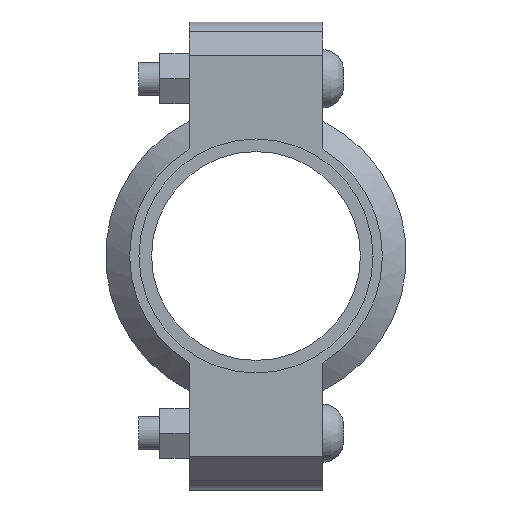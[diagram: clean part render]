
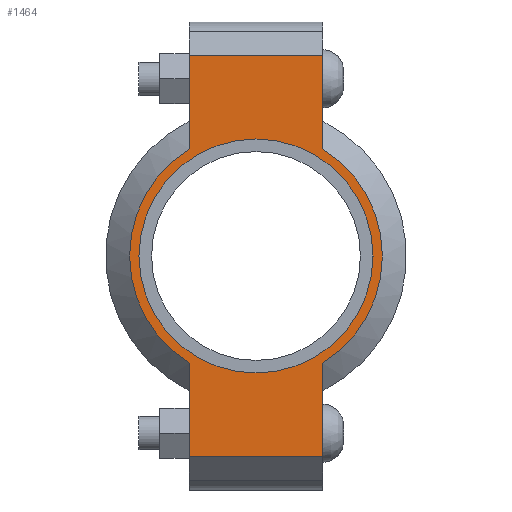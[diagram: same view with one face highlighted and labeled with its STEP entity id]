
A CAD part, left-side view. The second image highlights one B-rep face of the part: STEP entity #1464.
In plain terms, the highlighted planar face has unit normal (-1, 0, 0) as drawn and (0, 0, 1) by its records, which use the part's own axes.
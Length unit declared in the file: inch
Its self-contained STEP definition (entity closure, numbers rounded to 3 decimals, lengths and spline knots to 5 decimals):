
#144=LINE('',#2539,#235);
#152=LINE('',#2575,#243);
#159=LINE('',#2596,#250);
#168=LINE('',#2628,#259);
#169=LINE('',#2632,#260);
#170=LINE('',#2634,#261);
#235=VECTOR('',#2057,0.3937);
#243=VECTOR('',#2073,0.3937);
#250=VECTOR('',#2092,0.3937);
#259=VECTOR('',#2117,0.3937);
#260=VECTOR('',#2122,0.3937);
#261=VECTOR('',#2123,0.3937);
#313=FACE_BOUND('',#473,.T.);
#377=FACE_OUTER_BOUND('',#472,.T.);
#472=EDGE_LOOP('',(#1199,#1200,#1201,#1202,#1203,#1204,#1205,#1206));
#473=EDGE_LOOP('',(#1207));
#570=CIRCLE('',#1725,1.89);
#571=CIRCLE('',#1726,1.89);
#572=CIRCLE('',#1727,1.75);
#675=VERTEX_POINT('',#2536);
#676=VERTEX_POINT('',#2538);
#687=VERTEX_POINT('',#2570);
#688=VERTEX_POINT('',#2574);
#695=VERTEX_POINT('',#2593);
#696=VERTEX_POINT('',#2595);
#706=VERTEX_POINT('',#2631);
#707=VERTEX_POINT('',#2633);
#708=VERTEX_POINT('',#2636);
#839=EDGE_CURVE('',#676,#675,#144,.T.);
#853=EDGE_CURVE('',#688,#687,#152,.T.);
#863=EDGE_CURVE('',#696,#695,#159,.T.);
#878=EDGE_CURVE('',#688,#675,#168,.T.);
#879=EDGE_CURVE('',#687,#696,#570,.T.);
#880=EDGE_CURVE('',#706,#695,#169,.T.);
#881=EDGE_CURVE('',#706,#707,#170,.T.);
#882=EDGE_CURVE('',#707,#676,#571,.T.);
#883=EDGE_CURVE('',#708,#708,#572,.T.);
#1199=ORIENTED_EDGE('',*,*,#878,.F.);
#1200=ORIENTED_EDGE('',*,*,#853,.T.);
#1201=ORIENTED_EDGE('',*,*,#879,.T.);
#1202=ORIENTED_EDGE('',*,*,#863,.T.);
#1203=ORIENTED_EDGE('',*,*,#880,.F.);
#1204=ORIENTED_EDGE('',*,*,#881,.T.);
#1205=ORIENTED_EDGE('',*,*,#882,.T.);
#1206=ORIENTED_EDGE('',*,*,#839,.T.);
#1207=ORIENTED_EDGE('',*,*,#883,.T.);
#1318=PLANE('',#1724);
#1464=ADVANCED_FACE('',(#377,#313),#1318,.T.);
#1724=AXIS2_PLACEMENT_3D('',#2629,#2118,#2119);
#1725=AXIS2_PLACEMENT_3D('',#2630,#2120,#2121);
#1726=AXIS2_PLACEMENT_3D('',#2635,#2124,#2125);
#1727=AXIS2_PLACEMENT_3D('',#2637,#2126,#2127);
#2057=DIRECTION('',(1.,0.,0.));
#2073=DIRECTION('',(-1.,0.,0.));
#2092=DIRECTION('',(-1.,0.,0.));
#2117=DIRECTION('',(0.,-1.,0.));
#2118=DIRECTION('center_axis',(0.,0.,1.));
#2119=DIRECTION('ref_axis',(-1.,0.,0.));
#2120=DIRECTION('center_axis',(0.,0.,1.));
#2121=DIRECTION('ref_axis',(1.,0.,0.));
#2122=DIRECTION('',(0.,1.,0.));
#2123=DIRECTION('',(1.,0.,0.));
#2124=DIRECTION('center_axis',(0.,0.,1.));
#2125=DIRECTION('ref_axis',(1.,0.,0.));
#2126=DIRECTION('center_axis',(0.,0.,-1.));
#2127=DIRECTION('ref_axis',(1.,0.,0.));
#2536=CARTESIAN_POINT('',(3.,-1.,0.94));
#2538=CARTESIAN_POINT('',(1.60378,-1.,0.94));
#2539=CARTESIAN_POINT('',(3.5,-1.,0.94));
#2570=CARTESIAN_POINT('',(1.60378,1.,0.94));
#2574=CARTESIAN_POINT('',(3.,1.,0.94));
#2575=CARTESIAN_POINT('',(-3.5,1.,0.94));
#2593=CARTESIAN_POINT('',(-3.,1.,0.94));
#2595=CARTESIAN_POINT('',(-1.60378,1.,0.94));
#2596=CARTESIAN_POINT('',(-3.5,1.,0.94));
#2628=CARTESIAN_POINT('',(3.,-0.5,0.94));
#2629=CARTESIAN_POINT('Origin',(0.,0.,
0.94));
#2630=CARTESIAN_POINT('Origin',(0.,0.,0.94));
#2631=CARTESIAN_POINT('',(-3.,-1.,0.94));
#2632=CARTESIAN_POINT('',(-3.,0.5,0.94));
#2633=CARTESIAN_POINT('',(-1.60378,-1.,0.94));
#2634=CARTESIAN_POINT('',(3.5,-1.,0.94));
#2635=CARTESIAN_POINT('Origin',(0.,0.,0.94));
#2636=CARTESIAN_POINT('',(-1.75,0.,0.94));
#2637=CARTESIAN_POINT('Origin',(0.,0.,0.94));
